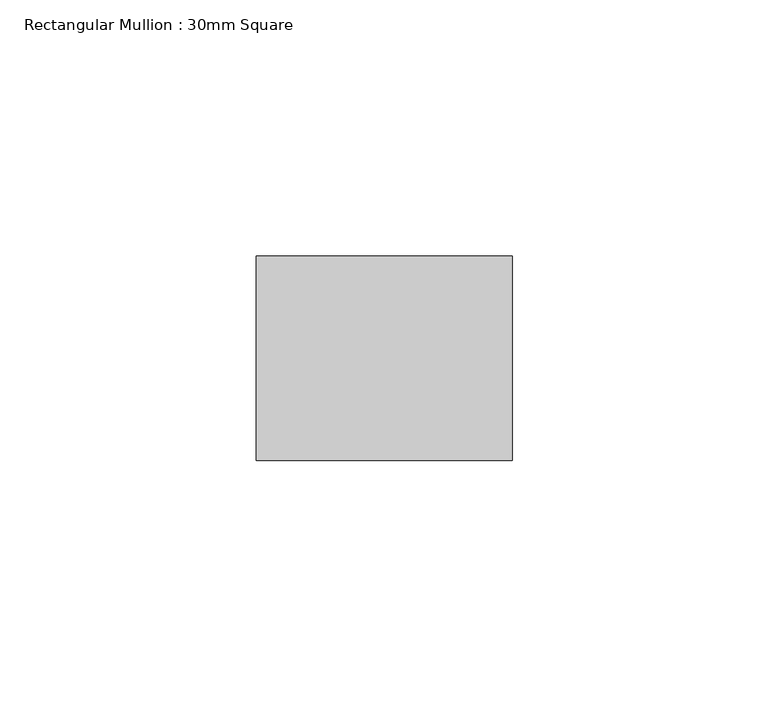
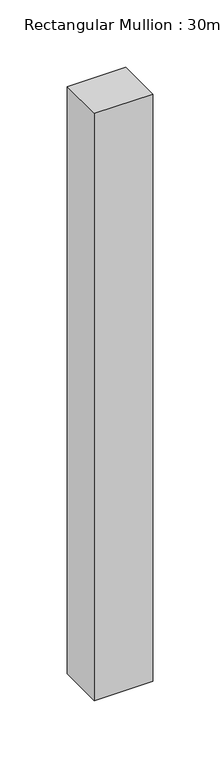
"""IFC4 building model written with IfcOpenShell, lengths in millimetres: member geometry, Rectangular Mullion : 30mm Square."""

from ifc_helpers import new_model, si_unit, frame, origin, place, context, project, spatial, polyline, outline, extrude, source, transform, mapped, element, save


def rectangular_mullion_30mm_square_e2a04273(model_context):
    return source(origin(), model_context, "Body", "SweptSolid", [
        extrude(outline(polyline([(0.0, 20.0), (0.0, -20.0), (-50.0, -20.0), (-50.0, 20.0), (0.0, 20.0)])), frame((0.0, 0.0, -532.1900063), z_axis=(0.0, 0.0, 1.0), x_axis=(1.0, 0.0, 0.0)), (0.0, 0.0, 1.0), 532.1900063),
    ])


if __name__ == "__main__":
    model = new_model("IFC4")
    model_context = context("Model", 3, world=origin())
    ifc_project = project(units=[si_unit("LENGTHUNIT", "METRE", prefix="MILLI")], contexts=[model_context])
    site = spatial("IfcSite", under=ifc_project)
    building = spatial("IfcBuilding", under=site)
    placement = place(None, origin())
    rectangular_mullion_30mm_square_shape = rectangular_mullion_30mm_square_e2a04273(model_context)
    element("IfcMember", 1, ObjectType="Rectangular Mullion : 30mm Square", at=placement, inside=building, context=model_context, shape_type="MappedRepresentation", body=[
        mapped(rectangular_mullion_30mm_square_shape, transform((0.0, 0.0, 0.0), x_axis=(1.0, 0.0, 0.0), y_axis=(0.0, 1.0, 0.0), z_axis=(0.0, 0.0, 1.0))),
    ])
    save(model, "model.ifc")
